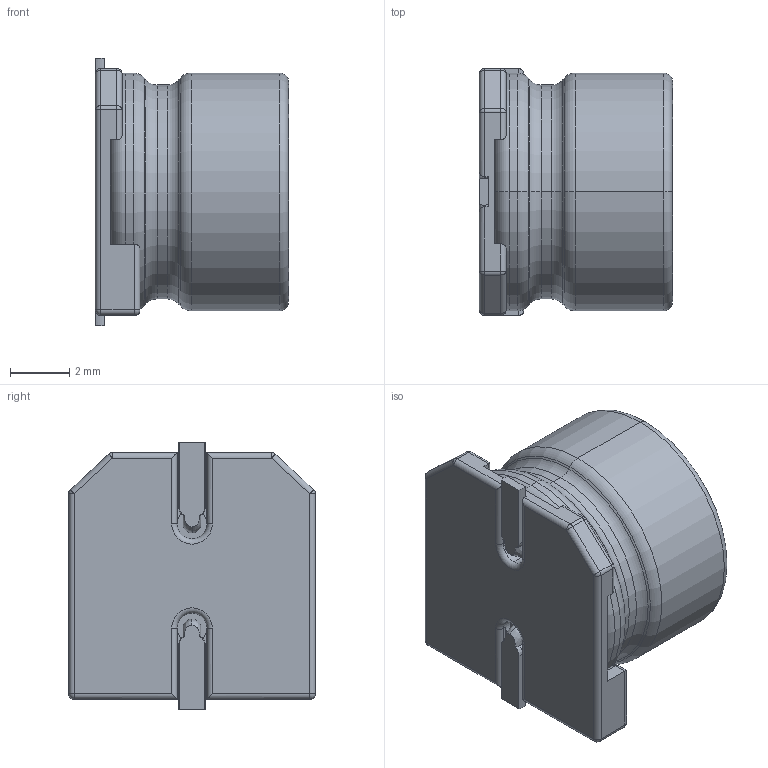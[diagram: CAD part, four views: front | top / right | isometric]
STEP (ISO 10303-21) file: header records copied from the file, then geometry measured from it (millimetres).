
FILE_DESCRIPTION((''),'2;1');
FILE_NAME('LIQUIDSMD8X65_ASM','2020-06-03T',('xy'),(''),'PRO/ENGINEER BY PARAMETRIC TECHNOLOGY CORPORATION, 2009380','PRO/ENGINEER BY PARAMETRIC TECHNOLOGY CORPORATION, 2009380','');
FILE_SCHEMA(('CONFIG_CONTROL_DESIGN'));
Length unit declared in the file: millimetre
Products named in the file (3): LIQUIDSMD8X65; ZB8A; LIQUIDSMD8X65_ASM
Assembly tree (2 placements, depth 2):
  LIQUIDSMD8X65_ASM
    LIQUIDSMD8X65
    ZB8A
Bounding box: 6.5 x 8.3 x 9 mm (x, y, z)
Volume: 325.3 mm3; surface area: 431.5 mm2
Topology: 2 solids, 2 shells, 294 faces, 730 edges, 448 vertices
Faces by surface type: plane 168, cylinder 69, torus 21, sphere 20, bspline 12, cone 4
Entity records: 9070 total; most frequent: CARTESIAN_POINT 1999, DIRECTION 1456, ORIENTED_EDGE 1452, EDGE_CURVE 726, VECTOR 518, LINE 518, AXIS2_PLACEMENT_3D 469, VERTEX_POINT 448
